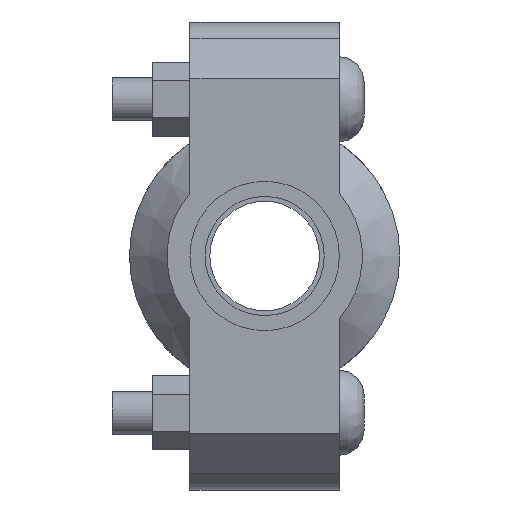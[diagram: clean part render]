
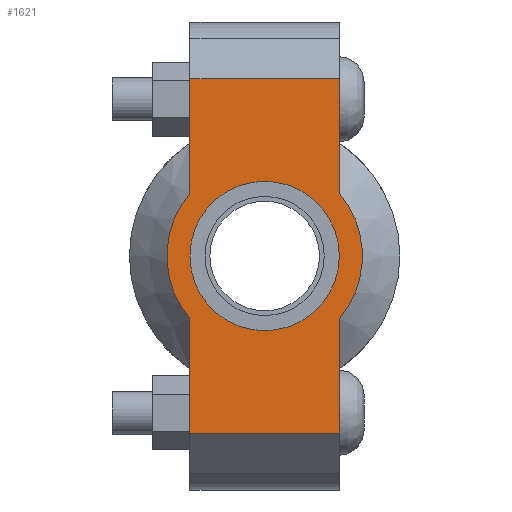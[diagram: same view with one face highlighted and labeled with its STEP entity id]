
A CAD part, left-side view. The second image highlights one B-rep face of the part: STEP entity #1621.
In plain terms, the highlighted planar face has unit normal (-1, 0, 0) as drawn and (0, 0, 1) by its records, which use the part's own axes.
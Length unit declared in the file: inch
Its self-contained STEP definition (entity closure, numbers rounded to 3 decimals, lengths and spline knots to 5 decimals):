
#176=LINE('',#2803,#273);
#191=LINE('',#2862,#288);
#199=LINE('',#2892,#296);
#201=LINE('',#2895,#298);
#202=LINE('',#2900,#299);
#203=LINE('',#2901,#300);
#273=VECTOR('',#2279,0.3937);
#288=VECTOR('',#2314,0.3937);
#296=VECTOR('',#2334,0.3937);
#298=VECTOR('',#2338,0.3937);
#299=VECTOR('',#2343,0.3937);
#300=VECTOR('',#2344,0.3937);
#364=FACE_BOUND('',#541,.T.);
#432=FACE_OUTER_BOUND('',#540,.T.);
#540=EDGE_LOOP('',(#1322,#1323,#1324,#1325,#1326,#1327,#1328,#1329));
#541=EDGE_LOOP('',(#1330));
#623=CIRCLE('',#1849,0.6575);
#647=CIRCLE('',#1901,0.86);
#648=CIRCLE('',#1902,0.86);
#719=VERTEX_POINT('',#2629);
#760=VERTEX_POINT('',#2800);
#761=VERTEX_POINT('',#2802);
#782=VERTEX_POINT('',#2857);
#783=VERTEX_POINT('',#2861);
#792=VERTEX_POINT('',#2887);
#793=VERTEX_POINT('',#2891);
#794=VERTEX_POINT('',#2897);
#795=VERTEX_POINT('',#2899);
#883=EDGE_CURVE('',#719,#719,#623,.T.);
#940=EDGE_CURVE('',#761,#760,#176,.T.);
#965=EDGE_CURVE('',#783,#782,#191,.T.);
#978=EDGE_CURVE('',#793,#792,#199,.T.);
#980=EDGE_CURVE('',#793,#760,#201,.T.);
#981=EDGE_CURVE('',#792,#794,#647,.T.);
#982=EDGE_CURVE('',#794,#795,#202,.T.);
#983=EDGE_CURVE('',#783,#795,#203,.T.);
#984=EDGE_CURVE('',#782,#761,#648,.T.);
#1322=ORIENTED_EDGE('',*,*,#980,.F.);
#1323=ORIENTED_EDGE('',*,*,#978,.T.);
#1324=ORIENTED_EDGE('',*,*,#981,.T.);
#1325=ORIENTED_EDGE('',*,*,#982,.T.);
#1326=ORIENTED_EDGE('',*,*,#983,.F.);
#1327=ORIENTED_EDGE('',*,*,#965,.T.);
#1328=ORIENTED_EDGE('',*,*,#984,.T.);
#1329=ORIENTED_EDGE('',*,*,#940,.T.);
#1330=ORIENTED_EDGE('',*,*,#883,.T.);
#1461=PLANE('',#1900);
#1621=ADVANCED_FACE('',(#432,#364),#1461,.T.);
#1849=AXIS2_PLACEMENT_3D('',#2631,#2169,#2170);
#1900=AXIS2_PLACEMENT_3D('',#2896,#2339,#2340);
#1901=AXIS2_PLACEMENT_3D('',#2898,#2341,#2342);
#1902=AXIS2_PLACEMENT_3D('',#2902,#2345,#2346);
#2169=DIRECTION('center_axis',(0.,0.,-1.));
#2170=DIRECTION('ref_axis',(-1.,0.,0.));
#2279=DIRECTION('',(-1.,0.,0.));
#2314=DIRECTION('',(-1.,0.,0.));
#2334=DIRECTION('',(1.,0.,0.));
#2338=DIRECTION('',(0.,1.,0.));
#2339=DIRECTION('center_axis',(0.,0.,1.));
#2340=DIRECTION('ref_axis',(1.,0.,0.));
#2341=DIRECTION('center_axis',(0.,0.,1.));
#2342=DIRECTION('ref_axis',(-1.,0.,0.));
#2343=DIRECTION('',(1.,0.,0.));
#2344=DIRECTION('',(0.,-1.,0.));
#2345=DIRECTION('center_axis',(0.,0.,1.));
#2346=DIRECTION('ref_axis',(-1.,0.,0.));
#2629=CARTESIAN_POINT('',(0.6575,0.,0.875));
#2631=CARTESIAN_POINT('Origin',(0.,0.,0.875));
#2800=CARTESIAN_POINT('',(-1.56,0.6575,0.875));
#2802=CARTESIAN_POINT('',(-0.55434,0.6575,0.875));
#2803=CARTESIAN_POINT('',(2.06,0.6575,0.875));
#2857=CARTESIAN_POINT('',(0.55434,0.6575,0.875));
#2861=CARTESIAN_POINT('',(1.56,0.6575,0.875));
#2862=CARTESIAN_POINT('',(2.06,0.6575,0.875));
#2887=CARTESIAN_POINT('',(-0.55434,-0.6575,0.875));
#2891=CARTESIAN_POINT('',(-1.56,-0.6575,0.875));
#2892=CARTESIAN_POINT('',(-2.06,-0.6575,0.875));
#2895=CARTESIAN_POINT('',(-1.56,0.32875,0.875));
#2896=CARTESIAN_POINT('Origin',(0.,0.,
0.875));
#2897=CARTESIAN_POINT('',(0.55434,-0.6575,0.875));
#2898=CARTESIAN_POINT('Origin',(0.,0.,0.875));
#2899=CARTESIAN_POINT('',(1.56,-0.6575,0.875));
#2900=CARTESIAN_POINT('',(-2.06,-0.6575,0.875));
#2901=CARTESIAN_POINT('',(1.56,-0.32875,0.875));
#2902=CARTESIAN_POINT('Origin',(0.,0.,0.875));
